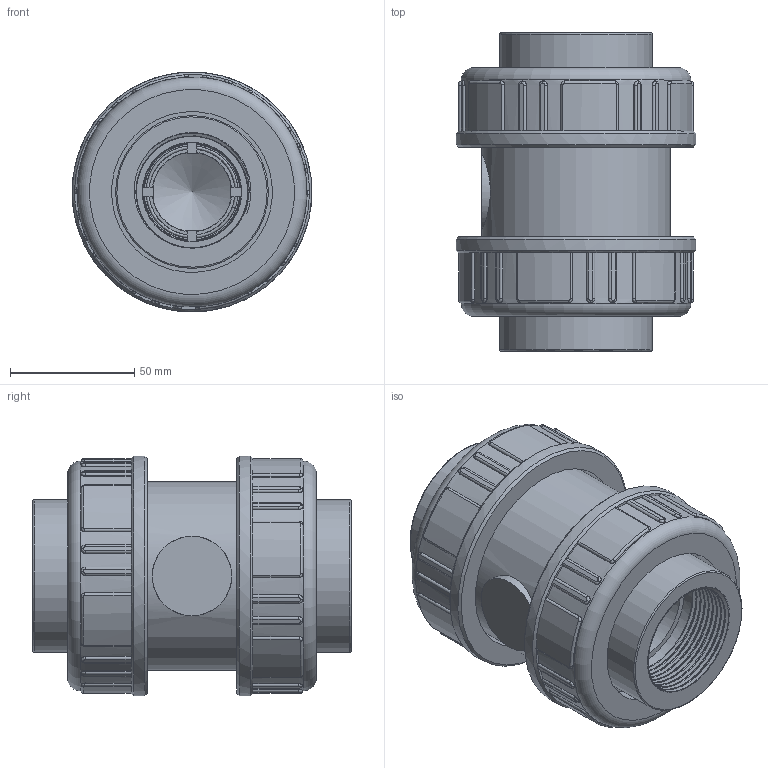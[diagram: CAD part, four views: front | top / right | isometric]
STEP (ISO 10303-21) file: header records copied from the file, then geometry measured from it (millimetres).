
FILE_DESCRIPTION(/* description */ (''),/* implementation_level */ '2;1');
FILE_NAME(/* name */ 'C:\Users\POLYPIPE\Desktop\DATASET INVENTOR\LIBRERIA EFFAST\3D_VALVOLE\3D_VALVOLE NON RITORNO\3D_CV\3D_CERCVE\3D_CERCVE050F.stp',/* time_stamp */ '2018-01-24T17:21:54+01:00',/* author */ ('POLYPIPE'),/* organization */ (''),/* preprocessor_version */ 'ST-DEVELOPER v16.1',/* originating_system */ 'Autodesk Inventor 2016',/* authorisation */ '');
FILE_SCHEMA (('CONFIG_CONTROL_DESIGN'));
Products named in the file (1): 3D_CERCVE050F
Bounding box: 96.46 x 128 x 96.48 mm (x, y, z)
Volume: 416121.8 mm3; surface area: 132433.9 mm2
Topology: 1 solids, 3 shells, 562 faces, 1400 edges, 858 vertices
Faces by surface type: plane 207, bspline 156, cylinder 149, torus 40, cone 10
Full cylindrical faces by diameter (mm): 38.1 x1, 38.3 x1, 39 x1, 40 x2, 44.2 x1, 44.6 x1, 44.845 x2, 48.7 x1, 51.3 x1, 55.4 x1, 55.5 x1, 58.9 x1, 61.5 x2, 64.4 x1, 64.7 x2, 65 x1, 66 x1, 66.7 x1, 72 x2, 76 x1, 78.5 x2, 92.5 x2, 96.5 x2
Entity records: 67697 total; most frequent: CARTESIAN_POINT 54837, ORIENTED_EDGE 2636, DIRECTION 2308, EDGE_CURVE 1318, AXIS2_PLACEMENT_3D 880, VERTEX_POINT 838, EDGE_LOOP 654, STYLED_ITEM 563
